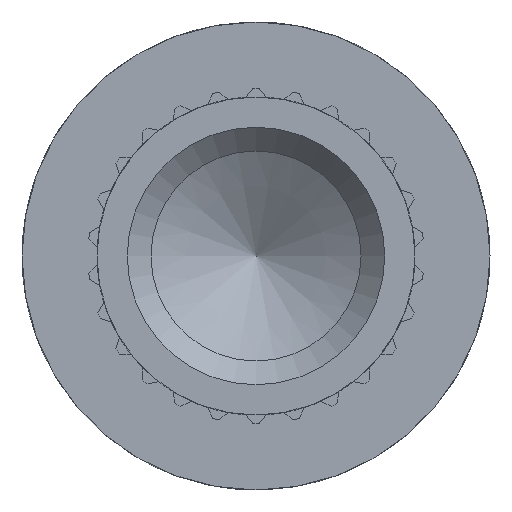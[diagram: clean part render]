
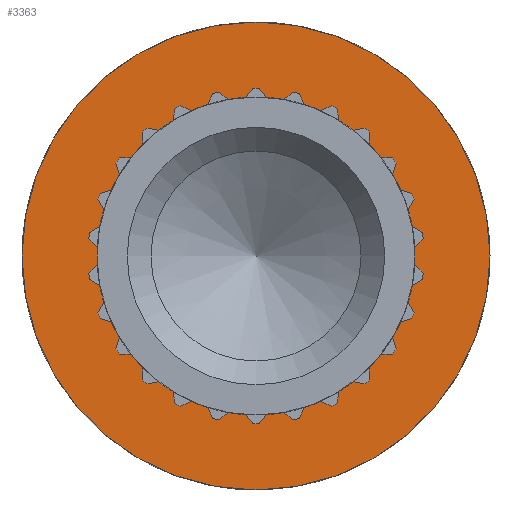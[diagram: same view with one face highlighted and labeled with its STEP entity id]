
A CAD part, left-side view. The second image highlights one B-rep face of the part: STEP entity #3363.
In plain terms, the highlighted planar face has unit normal (-1, 0, 0).
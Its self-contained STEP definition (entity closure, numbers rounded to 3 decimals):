
#17=FACE_BOUND($,#656,.T.);
#243=CIRCLE($,#3740,1.346);
#244=CIRCLE($,#3742,1.981);
#447=FACE_OUTER_BOUND($,#655,.T.);
#655=EDGE_LOOP($,(#2977));
#656=EDGE_LOOP($,(#2978));
#1550=VERTEX_POINT($,#5842);
#1551=VERTEX_POINT($,#5845);
#2031=EDGE_CURVE($,#1550,#1550,#243,.T.);
#2032=EDGE_CURVE($,#1551,#1551,#244,.T.);
#2977=ORIENTED_EDGE($,*,*,#2032,.F.);
#2978=ORIENTED_EDGE($,*,*,#2031,.T.);
#3163=PLANE($,#3741);
#3363=ADVANCED_FACE($,(#447,#17),#3163,.T.);
#3740=AXIS2_PLACEMENT_3D($,#5843,#4787,#4788);
#3741=AXIS2_PLACEMENT_3D($,#5844,#4789,#4790);
#3742=AXIS2_PLACEMENT_3D($,#5846,#4791,#4792);
#4787=DIRECTION('center_axis',(1.,0.,0.));
#4788=DIRECTION('ref_axis',(0.,1.,0.));
#4789=DIRECTION('center_axis',(-1.,0.,0.));
#4790=DIRECTION('ref_axis',(0.,0.,1.));
#4791=DIRECTION('center_axis',(1.,0.,0.));
#4792=DIRECTION('ref_axis',(0.,1.,0.));
#5842=CARTESIAN_POINT('',(3.58,1.346,0.));
#5843=CARTESIAN_POINT('Origin',(3.58,0.,0.));
#5844=CARTESIAN_POINT('Origin',(3.58,1.664,0.));
#5845=CARTESIAN_POINT('',(3.58,1.981,0.));
#5846=CARTESIAN_POINT('Origin',(3.58,0.,0.));
